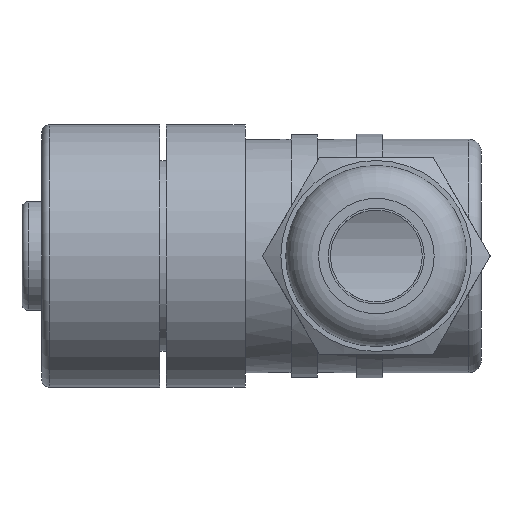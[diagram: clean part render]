
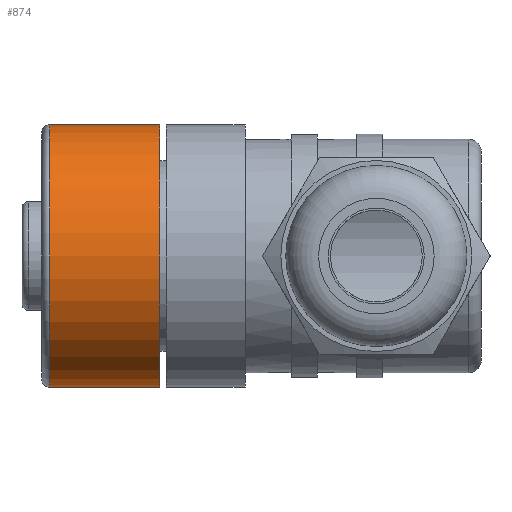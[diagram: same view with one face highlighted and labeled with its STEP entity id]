
A CAD part, front view. The second image highlights one B-rep face of the part: STEP entity #874.
In plain terms, the highlighted cylindrical face has radius 10 mm (diameter 20 mm), a full revolution.
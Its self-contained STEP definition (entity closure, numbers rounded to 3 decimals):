
#650=CYLINDRICAL_SURFACE('',#1862,10.);
#874=ADVANCED_FACE('',(#994,#995),#650,.T.);
#994=FACE_BOUND('',#1099,.T.);
#995=FACE_BOUND('',#1100,.T.);
#1099=EDGE_LOOP('',(#1298));
#1100=EDGE_LOOP('',(#1299));
#1298=ORIENTED_EDGE('',*,*,#1656,.T.);
#1299=ORIENTED_EDGE('',*,*,#1655,.T.);
#1527=VERTEX_POINT('',#2489);
#1528=VERTEX_POINT('',#2492);
#1655=EDGE_CURVE('',#1527,#1527,#1764,.T.);
#1656=EDGE_CURVE('',#1528,#1528,#1765,.T.);
#1764=CIRCLE('',#1859,10.);
#1765=CIRCLE('',#1861,10.);
#1859=AXIS2_PLACEMENT_3D('',#2488,#2093,#2094);
#1861=AXIS2_PLACEMENT_3D('',#2491,#2097,#2098);
#1862=AXIS2_PLACEMENT_3D('',#2493,#2099,#2100);
#2093=DIRECTION('',(-1.,0.,0.));
#2094=DIRECTION('',(0.,0.,1.));
#2097=DIRECTION('',(1.,0.,0.));
#2098=DIRECTION('',(0.,0.,1.));
#2099=DIRECTION('',(-1.,0.,0.));
#2100=DIRECTION('',(0.,0.,-1.));
#2488=CARTESIAN_POINT('',(-3.,0.,0.));
#2489=CARTESIAN_POINT('',(-3.,0.,10.));
#2491=CARTESIAN_POINT('',(-11.4,0.,0.));
#2492=CARTESIAN_POINT('',(-11.4,0.,10.));
#2493=CARTESIAN_POINT('',(-3.,0.,0.));
